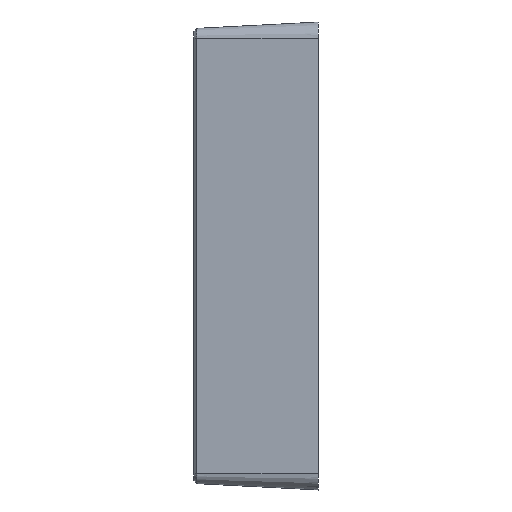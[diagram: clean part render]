
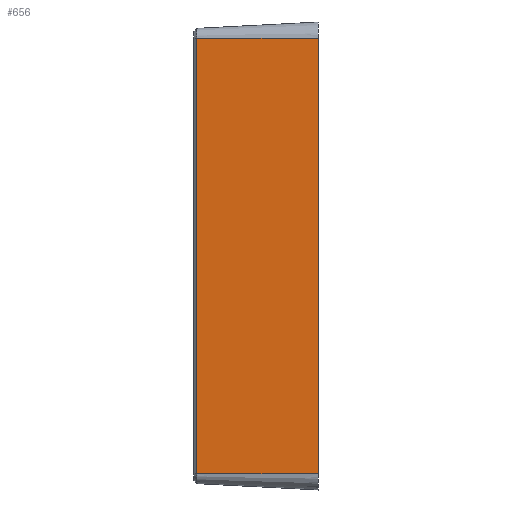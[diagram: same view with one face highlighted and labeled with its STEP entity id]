
A CAD part, left-side view. The second image highlights one B-rep face of the part: STEP entity #656.
In plain terms, the highlighted planar face has unit normal (-0.999, 0.052, 0).
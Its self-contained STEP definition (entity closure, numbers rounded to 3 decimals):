
#628 = EDGE_CURVE ( 'NONE', #711, #685, #1449, .T. ) ;
#636 = ORIENTED_EDGE ( 'NONE', *, *, #628, .T. ) ;
#656 = ADVANCED_FACE ( 'NONE', ( #1568 ), #1567, .T. ) ;
#669 = ORIENTED_EDGE ( 'NONE', *, *, #670, .F. ) ;
#670 = EDGE_CURVE ( 'NONE', #671, #685, #1531, .T. ) ;
#671 = VERTEX_POINT ( 'NONE', #1526 ) ;
#679 = VERTEX_POINT ( 'NONE', #1611 ) ;
#685 = VERTEX_POINT ( 'NONE', #1603 ) ;
#686 = ORIENTED_EDGE ( 'NONE', *, *, #687, .T. ) ;
#687 = EDGE_CURVE ( 'NONE', #671, #679, #1602, .T. ) ;
#688 = ORIENTED_EDGE ( 'NONE', *, *, #710, .T. ) ;
#710 = EDGE_CURVE ( 'NONE', #679, #711, #1714, .T. ) ;
#711 = VERTEX_POINT ( 'NONE', #1727 ) ;
#715 = EDGE_LOOP ( 'NONE', ( #669, #686, #688, #636 ) ) ;
#1431 = DIRECTION ( 'NONE',  ( 0., 0., 1. ) ) ;
#1432 = VECTOR ( 'NONE', #1431, 1000. ) ;
#1433 = CARTESIAN_POINT ( 'NONE',  ( -50., 0., -46.5 ) ) ;
#1440 = DIRECTION ( 'NONE',  ( -0.052, -0.999, 0. ) ) ;
#1441 = DIRECTION ( 'NONE',  ( -0.999, 0.052, 0. ) ) ;
#1442 = CARTESIAN_POINT ( 'NONE',  ( -50., 0., -46.5 ) ) ;
#1443 = AXIS2_PLACEMENT_3D ( 'NONE', #1442, #1441, #1440 ) ;
#1449 = LINE ( 'NONE', #1433, #1432 ) ;
#1526 = CARTESIAN_POINT ( 'NONE',  ( -48.639, 25.967, 46.5 ) ) ;
#1528 = DIRECTION ( 'NONE',  ( -0.052, -0.999, 0. ) ) ;
#1529 = VECTOR ( 'NONE', #1528, 1000. ) ;
#1530 = CARTESIAN_POINT ( 'NONE',  ( -50., 0., 46.5 ) ) ;
#1531 = LINE ( 'NONE', #1530, #1529 ) ;
#1567 = PLANE ( 'NONE',  #1443 ) ;
#1568 = FACE_OUTER_BOUND ( 'NONE', #715, .T. ) ;
#1599 = DIRECTION ( 'NONE',  ( 0., 0., -1. ) ) ;
#1600 = VECTOR ( 'NONE', #1599, 1000. ) ;
#1601 = CARTESIAN_POINT ( 'NONE',  ( -48.639, 25.967, -46.5 ) ) ;
#1602 = LINE ( 'NONE', #1601, #1600 ) ;
#1603 = CARTESIAN_POINT ( 'NONE',  ( -50., 0., 46.5 ) ) ;
#1611 = CARTESIAN_POINT ( 'NONE',  ( -48.639, 25.967, -46.5 ) ) ;
#1623 = DIRECTION ( 'NONE',  ( -0.052, -0.999, 0. ) ) ;
#1630 = VECTOR ( 'NONE', #1623, 1000. ) ;
#1663 = CARTESIAN_POINT ( 'NONE',  ( -50., 0., -46.5 ) ) ;
#1714 = LINE ( 'NONE', #1663, #1630 ) ;
#1727 = CARTESIAN_POINT ( 'NONE',  ( -50., 0., -46.5 ) ) ;
